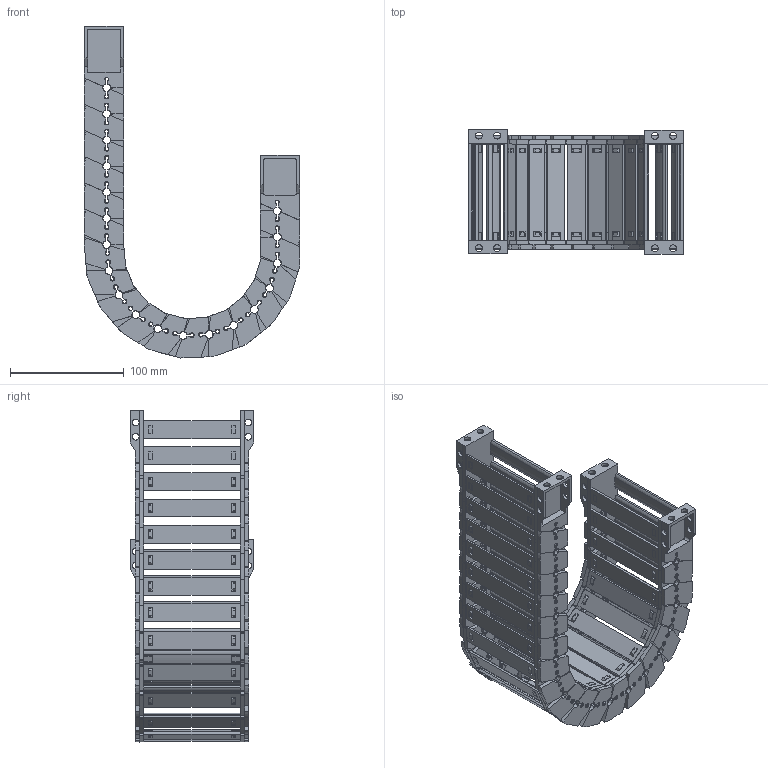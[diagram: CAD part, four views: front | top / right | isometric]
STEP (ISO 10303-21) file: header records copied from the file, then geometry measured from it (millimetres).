
FILE_DESCRIPTION(/* description */ (''),/* implementation_level */ '2;1');
FILE_NAME(/* name */ 'JY28-85-R75.stp',/* time_stamp */ '2026-06-03T16:25:45+08:00',/* author */ (''),/* organization */ (''),/* preprocessor_version */ 'ST-DEVELOPER v19.4',/* originating_system */ 'SIEMENS PLM Software NX2306.5001',/* authorisation */ '');
FILE_SCHEMA (('AP203_CONFIGURATION_CONTROLLED_3D_DESIGN_OF_MECHANICAL_PARTS_AND_ASSEMBLIES_MIM_LF { 1 0 10303 403 2 1 2}'));
Products named in the file (1): 简化图纸_objects
Bounding box: 189.55 x 109 x 292.17 mm (x, y, z)
Volume: 402707.3 mm3; surface area: 292423.4 mm2
Topology: 74 solids, 74 shells, 6194 faces, 17618 edges, 11518 vertices
Faces by surface type: plane 4058, cone 1120, cylinder 978, bspline 36, torus 2
Full cylindrical faces by diameter (mm): 6 x24
Entity records: 209461 total; most frequent: CARTESIAN_POINT 46487, ORIENTED_EDGE 35144, DIRECTION 33002, EDGE_CURVE 17572, LINE 11632, VECTOR 11632, VERTEX_POINT 11496, AXIS2_PLACEMENT_3D 10685
